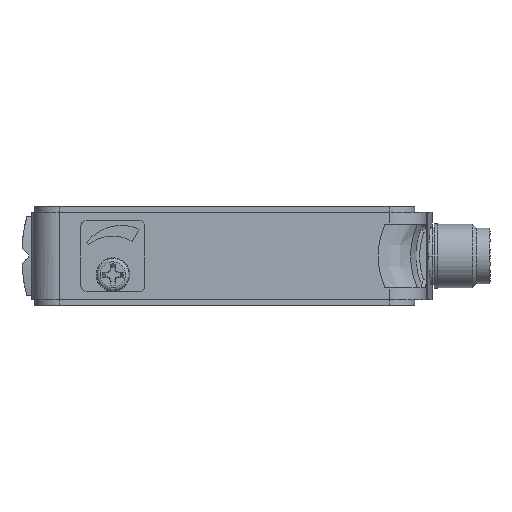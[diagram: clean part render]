
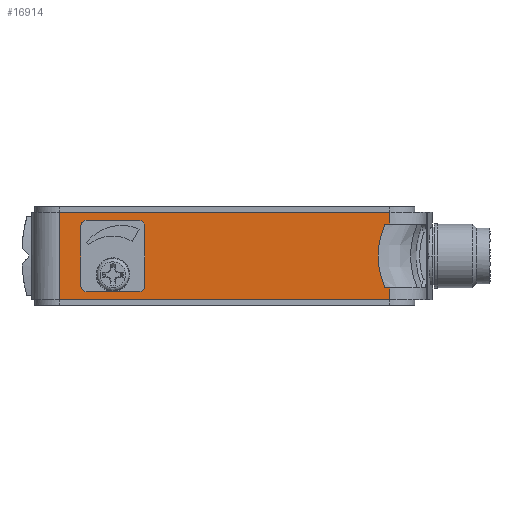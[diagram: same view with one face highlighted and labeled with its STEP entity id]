
A CAD part, left-side view. The second image highlights one B-rep face of the part: STEP entity #16914.
In plain terms, the highlighted free-form (B-spline) face has degree [1, 1] with [2, 2] control points.
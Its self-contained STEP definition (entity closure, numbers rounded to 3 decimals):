
#411=CARTESIAN_POINT('V438',(76.263,-48.363,
   2.55));
#412=VERTEX_POINT('V438',#411);
#433=CARTESIAN_POINT('V439',(76.263,-47.363,
   3.55));
#434=VERTEX_POINT('V439',#433);
#440=CARTESIAN_POINT('E629',(76.263,-48.363,
   2.55));
#441=CARTESIAN_POINT('E629',(76.263,-47.363,
   2.55));
#442=CARTESIAN_POINT('E629',(76.263,-47.363,
   3.55));
#450=(BOUNDED_CURVE()B_SPLINE_CURVE(2,(#440,#441,#442),
   .CIRCULAR_ARC.,.F.,.U.)B_SPLINE_CURVE_WITH_KNOTS((3,3),(0.0,
   6.667),.UNSPECIFIED.)CURVE()
   GEOMETRIC_REPRESENTATION_ITEM()RATIONAL_B_SPLINE_CURVE((1.0,
   0.707,1.0))REPRESENTATION_ITEM('E629'));
#451=EDGE_CURVE('E629',#412,#434,#450,.T.);
#463=CARTESIAN_POINT('V437',(76.263,-58.363,
   2.55));
#464=VERTEX_POINT('V437',#463);
#476=CARTESIAN_POINT('E628',(76.263,-58.363,
   2.55));
#477=CARTESIAN_POINT('E628',(76.263,-48.363,
   2.55));
#478=B_SPLINE_CURVE_WITH_KNOTS('E628',1,(#476,#477),.POLYLINE_FORM.,
   .F.,.U.,(2,2),(0.0,33.333),.UNSPECIFIED.);
#479=EDGE_CURVE('E628',#464,#412,#478,.T.);
#500=CARTESIAN_POINT('V436',(76.263,-59.363,
   3.55));
#501=VERTEX_POINT('V436',#500);
#521=CARTESIAN_POINT('E627',(76.263,-59.363,
   3.55));
#522=CARTESIAN_POINT('E627',(76.263,-59.363,
   2.55));
#523=CARTESIAN_POINT('E627',(76.263,-58.363,
   2.55));
#531=(BOUNDED_CURVE()B_SPLINE_CURVE(2,(#521,#522,#523),
   .CIRCULAR_ARC.,.F.,.U.)B_SPLINE_CURVE_WITH_KNOTS((3,3),(0.0,
   6.667),.UNSPECIFIED.)CURVE()
   GEOMETRIC_REPRESENTATION_ITEM()RATIONAL_B_SPLINE_CURVE((1.0,
   0.707,1.0))REPRESENTATION_ITEM('E627'));
#532=EDGE_CURVE('E627',#501,#464,#531,.T.);
#544=CARTESIAN_POINT('V435',(76.263,-59.363,
   14.95));
#545=VERTEX_POINT('V435',#544);
#557=CARTESIAN_POINT('E626',(76.263,-59.363,
   14.95));
#558=CARTESIAN_POINT('E626',(76.263,-59.363,
   3.55));
#559=B_SPLINE_CURVE_WITH_KNOTS('E626',1,(#557,#558),.POLYLINE_FORM.,
   .F.,.U.,(2,2),(0.0,38.),.UNSPECIFIED.);
#560=EDGE_CURVE('E626',#545,#501,#559,.T.);
#581=CARTESIAN_POINT('V434',(76.263,-58.363,
   15.95));
#582=VERTEX_POINT('V434',#581);
#602=CARTESIAN_POINT('E625',(76.263,-58.363,
   15.95));
#603=CARTESIAN_POINT('E625',(76.263,-59.363,
   15.95));
#604=CARTESIAN_POINT('E625',(76.263,-59.363,
   14.95));
#612=(BOUNDED_CURVE()B_SPLINE_CURVE(2,(#602,#603,#604),
   .CIRCULAR_ARC.,.F.,.U.)B_SPLINE_CURVE_WITH_KNOTS((3,3),(0.0,
   6.667),.UNSPECIFIED.)CURVE()
   GEOMETRIC_REPRESENTATION_ITEM()RATIONAL_B_SPLINE_CURVE((1.0,
   0.707,1.0))REPRESENTATION_ITEM('E625'));
#613=EDGE_CURVE('E625',#582,#545,#612,.T.);
#625=CARTESIAN_POINT('V433',(76.263,-48.363,
   15.95));
#626=VERTEX_POINT('V433',#625);
#638=CARTESIAN_POINT('E624',(76.263,-48.363,
   15.95));
#639=CARTESIAN_POINT('E624',(76.263,-58.363,
   15.95));
#640=B_SPLINE_CURVE_WITH_KNOTS('E624',1,(#638,#639),.POLYLINE_FORM.,
   .F.,.U.,(2,2),(0.0,33.333),.UNSPECIFIED.);
#641=EDGE_CURVE('E624',#626,#582,#640,.T.);
#660=CARTESIAN_POINT('V432',(76.263,-47.363,
   14.95));
#661=VERTEX_POINT('V432',#660);
#683=CARTESIAN_POINT('E623',(76.263,-47.363,
   14.95));
#684=CARTESIAN_POINT('E623',(76.263,-47.363,
   15.95));
#685=CARTESIAN_POINT('E623',(76.263,-48.363,
   15.95));
#693=(BOUNDED_CURVE()B_SPLINE_CURVE(2,(#683,#684,#685),
   .CIRCULAR_ARC.,.F.,.U.)B_SPLINE_CURVE_WITH_KNOTS((3,3),(0.0,
   6.667),.UNSPECIFIED.)CURVE()
   GEOMETRIC_REPRESENTATION_ITEM()RATIONAL_B_SPLINE_CURVE((1.0,
   0.707,1.0))REPRESENTATION_ITEM('E623'));
#694=EDGE_CURVE('E623',#661,#626,#693,.T.);
#10772=CARTESIAN_POINT('V110',(76.263,
   -43.363,17.45));
#10773=VERTEX_POINT('V110',#10772);
#10788=CARTESIAN_POINT('V426',(76.263,
   -43.363,1.05));
#10789=VERTEX_POINT('V426',#10788);
#10803=CARTESIAN_POINT('E616',(76.263,
   -43.363,17.45));
#10804=CARTESIAN_POINT('E616',(76.263,
   -43.363,1.05));
#10805=B_SPLINE_CURVE_WITH_KNOTS('E616',1,(#10803,#10804),
   .POLYLINE_FORM.,.F.,.U.,(2,2),(0.101,
   1.678),.UNSPECIFIED.);
#10806=EDGE_CURVE('E616',#10773,#10789,#10805,.T.);
#13966=CARTESIAN_POINT('V427',(76.263,
   -105.42,1.05));
#13967=VERTEX_POINT('V427',#13966);
#13990=CARTESIAN_POINT('V428',(76.263,
   -105.42,3.25));
#13991=VERTEX_POINT('V428',#13990);
#14005=CARTESIAN_POINT('E618',(76.263,
   -105.42,1.05));
#14006=CARTESIAN_POINT('E618',(76.263,
   -105.42,3.25));
#14007=B_SPLINE_CURVE_WITH_KNOTS('E618',1,(#14005,#14006),
   .POLYLINE_FORM.,.F.,.U.,(2,2),(0.057,
   0.176),.UNSPECIFIED.);
#14008=EDGE_CURVE('E618',#13967,#13991,#14007,.T.);
#14033=CARTESIAN_POINT('V429',(76.268,
   -104.476,3.25));
#14034=VERTEX_POINT('V429',#14033);
#14048=CARTESIAN_POINT('E619',(76.263,
   -105.42,3.25));
#14049=CARTESIAN_POINT('E619',(76.263,
   -104.476,3.25));
#14050=B_SPLINE_CURVE_WITH_KNOTS('E619',1,(#14048,#14049),
   .POLYLINE_FORM.,.F.,.U.,(2,2),(0.175,1.0),
   .UNSPECIFIED.);
#14051=EDGE_CURVE('E619',#13991,#14034,#14050,.T.);
#14099=CARTESIAN_POINT('V430',(76.268,
   -104.476,15.25));
#14100=VERTEX_POINT('V430',#14099);
#14114=CARTESIAN_POINT('E620',(76.268,
   -104.476,3.25));
#14115=CARTESIAN_POINT('E620',(76.268,
   -101.857,9.25));
#14116=CARTESIAN_POINT('E620',(76.268,
   -104.476,15.25));
#14124=(BOUNDED_CURVE()B_SPLINE_CURVE(2,(#14114,#14115,#14116),
   .CIRCULAR_ARC.,.F.,.U.)B_SPLINE_CURVE_WITH_KNOTS((3,3),(0.0,
   13.093),.UNSPECIFIED.)CURVE()
   GEOMETRIC_REPRESENTATION_ITEM()RATIONAL_B_SPLINE_CURVE((1.0,
   0.917,1.0))REPRESENTATION_ITEM('E620'));
#14125=EDGE_CURVE('E620',#14034,#14100,#14124,.T.);
#14135=CARTESIAN_POINT('V431',(76.263,
   -105.42,15.25));
#14136=VERTEX_POINT('V431',#14135);
#14137=CARTESIAN_POINT('E621',(76.263,
   -104.476,15.25));
#14138=CARTESIAN_POINT('E621',(76.263,
   -105.42,15.25));
#14139=B_SPLINE_CURVE_WITH_KNOTS('E621',1,(#14137,#14138),
   .POLYLINE_FORM.,.F.,.U.,(2,2),(0.175,1.0),
   .UNSPECIFIED.);
#14140=EDGE_CURVE('E621',#14100,#14136,#14139,.T.);
#14192=CARTESIAN_POINT('V109',(76.263,
   -105.42,17.45));
#14193=VERTEX_POINT('V109',#14192);
#14207=CARTESIAN_POINT('E622',(76.263,
   -105.42,15.25));
#14208=CARTESIAN_POINT('E622',(76.263,
   -105.42,17.45));
#14209=B_SPLINE_CURVE_WITH_KNOTS('E622',1,(#14207,#14208),
   .POLYLINE_FORM.,.F.,.U.,(2,2),(0.824,
   0.943),.UNSPECIFIED.);
#14210=EDGE_CURVE('E622',#14136,#14193,#14209,.T.);
#14577=CARTESIAN_POINT('E617',(76.263,
   -43.363,1.05));
#14578=CARTESIAN_POINT('E617',(76.263,
   -105.42,1.05));
#14579=QUASI_UNIFORM_CURVE('E617',1,(#14577,#14578),.POLYLINE_FORM.,
   .F.,.U.);
#14580=EDGE_CURVE('E617',#10789,#13967,#14579,.T.);
#16860=CARTESIAN_POINT('E140',(76.263,
   -105.42,17.45));
#16861=CARTESIAN_POINT('E140',(76.263,
   -43.363,17.45));
#16862=QUASI_UNIFORM_CURVE('E140',1,(#16860,#16861),.POLYLINE_FORM.,
   .F.,.U.);
#16863=EDGE_CURVE('E140',#14193,#10773,#16862,.T.);
#16885=CARTESIAN_POINT('F204',(76.263,
   -43.363,0.0));
#16886=CARTESIAN_POINT('F204',(76.263,
   -105.42,0.0));
#16887=CARTESIAN_POINT('F204',(76.263,
   -43.363,18.5));
#16888=CARTESIAN_POINT('F204',(76.263,
   -105.42,18.5));
#16889=B_SPLINE_SURFACE_WITH_KNOTS('F204',1,1,((#16885,#16887),(
   #16886,#16888)),.PLANE_SURF.,.F.,.F.,.U.,(2,2),(2,2),(0.0,
   3.354),(0.0,1.0),.UNSPECIFIED.);
#16890=ORIENTED_EDGE('E140',*,*,#16863,.T.);
#16891=ORIENTED_EDGE('F232',*,*,#10806,.T.);
#16892=ORIENTED_EDGE('E617',*,*,#14580,.T.);
#16893=ORIENTED_EDGE('F229',*,*,#14008,.T.);
#16894=ORIENTED_EDGE('E619',*,*,#14051,.T.);
#16895=ORIENTED_EDGE('F239',*,*,#14125,.T.);
#16896=ORIENTED_EDGE('E621',*,*,#14140,.T.);
#16897=ORIENTED_EDGE('E622',*,*,#14210,.T.);
#16898=EDGE_LOOP('F204',(#16890,#16891,#16892,#16893,#16894,#16895,
   #16896,#16897));
#16899=FACE_OUTER_BOUND('F204',#16898,.T.);
#16900=ORIENTED_EDGE('F217',*,*,#694,.T.);
#16901=ORIENTED_EDGE('F216',*,*,#641,.T.);
#16902=ORIENTED_EDGE('F215',*,*,#613,.T.);
#16903=ORIENTED_EDGE('F214',*,*,#560,.T.);
#16904=ORIENTED_EDGE('F213',*,*,#532,.T.);
#16905=ORIENTED_EDGE('F212',*,*,#479,.T.);
#16906=ORIENTED_EDGE('F211',*,*,#451,.T.);
#16907=CARTESIAN_POINT('E630',(76.263,
   -47.363,3.55));
#16908=CARTESIAN_POINT('E630',(76.263,
   -47.363,14.95));
#16909=B_SPLINE_CURVE_WITH_KNOTS('E630',1,(#16907,#16908),
   .POLYLINE_FORM.,.F.,.U.,(2,2),(0.0,38.),
   .UNSPECIFIED.);
#16910=EDGE_CURVE('E630',#434,#661,#16909,.T.);
#16911=ORIENTED_EDGE('E630',*,*,#16910,.T.);
#16912=EDGE_LOOP('F204',(#16900,#16901,#16902,#16903,#16904,#16905,
   #16906,#16911));
#16913=FACE_BOUND('F204',#16912,.T.);
#16914=ADVANCED_FACE('F204',(#16899,#16913),#16889,.T.);
